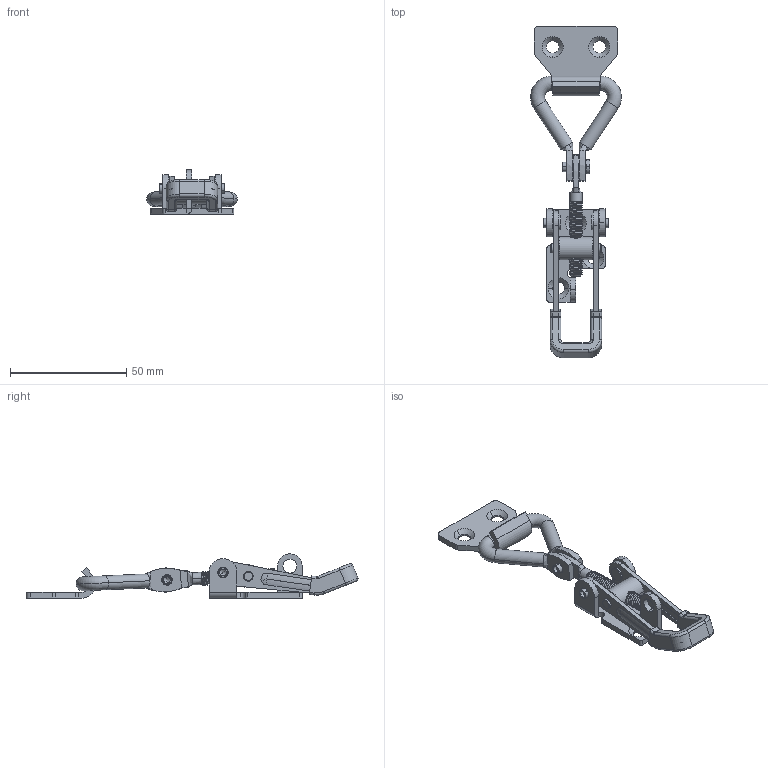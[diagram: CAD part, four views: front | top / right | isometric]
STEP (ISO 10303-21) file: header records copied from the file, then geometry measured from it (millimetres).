
FILE_DESCRIPTION (( 'STEP AP203' ), '1' );
FILE_NAME ('DK614S4C000001.STEP', '2016-07-18T04:23:25', ( 'SkyUser' ), ( 'ChinaSKY' ), 'SwSTEP 2.0', 'SolidWorks 2014', '' );
FILE_SCHEMA (( 'CONFIG_CONTROL_DESIGN' ));
Length unit declared in the file: millimetre
Products named in the file (11): DK614S4C000001; 8SJ.DK614.0740; 8SJ.DK614.0420; 8SJ.DK614.0580; PVC浸塑件_默认<按加工>; 8SJ.DK614.0660; 5SJ.DK614.0370; 8SJ.DK614.0650; 8SJ.DK614.0220; 8SJ.DK614.0570; 8SJ.DK614.0680
Assembly tree (11 placements, depth 3):
  DK614S4C000001
    8SJ.DK614.0220
    8SJ.DK614.0680
    8SJ.DK614.0740
    8SJ.DK614.0420
    8SJ.DK614.0580  x2
    5SJ.DK614.0370
      PVC浸塑件_默认<按加工>
      8SJ.DK614.0660
    8SJ.DK614.0650
    8SJ.DK614.0570
Bounding box: 38.94 x 142.58 x 19 mm (x, y, z)
Volume: 13986.7 mm3; surface area: 15430.5 mm2
Topology: 10 solids, 10 shells, 558 faces, 1382 edges, 837 vertices
Faces by surface type: cylinder 273, plane 140, torus 74, bspline 38, cone 33
Entity records: 25900 total; most frequent: CARTESIAN_POINT 12158, DIRECTION 2687, ORIENTED_EDGE 2656, EDGE_CURVE 1328, AXIS2_PLACEMENT_3D 1052, VERTEX_POINT 810, VECTOR 583, LINE 583
